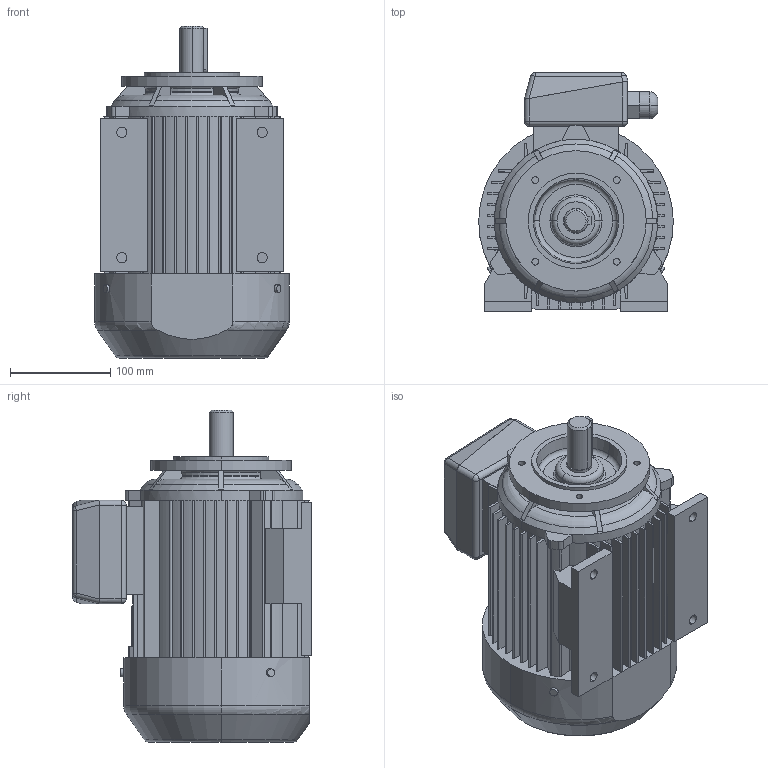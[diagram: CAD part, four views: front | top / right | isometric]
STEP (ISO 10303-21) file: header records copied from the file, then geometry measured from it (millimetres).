
FILE_DESCRIPTION (( 'STEP AP203' ), '1' );
FILE_NAME ('3SIEL90L2-B34-C2.STEP', '2016-02-08T11:56:31', ( 'Indukta' ), ( 'Celma Indukta S.A.' ), 'SwSTEP 2.0', 'SolidWorks 2003064', '' );
FILE_SCHEMA (( 'CONFIG_CONTROL_DESIGN' ));
Length unit declared in the file: millimetre
Products named in the file (1): 3SIEL90L2-B34-C2
Bounding box: 194 x 238 x 331 mm (x, y, z)
Volume: 7247100.1 mm3; surface area: 410238.6 mm2
Topology: 1 solids, 1 shells, 639 faces, 1738 edges, 1111 vertices
Faces by surface type: plane 331, cylinder 171, bspline 78, torus 37, cone 14, sphere 8
Entity records: 26818 total; most frequent: CARTESIAN_POINT 10917, ORIENTED_EDGE 3460, DIRECTION 3106, EDGE_CURVE 1730, VERTEX_POINT 1111, AXIS2_PLACEMENT_3D 1062, LINE 982, VECTOR 982
